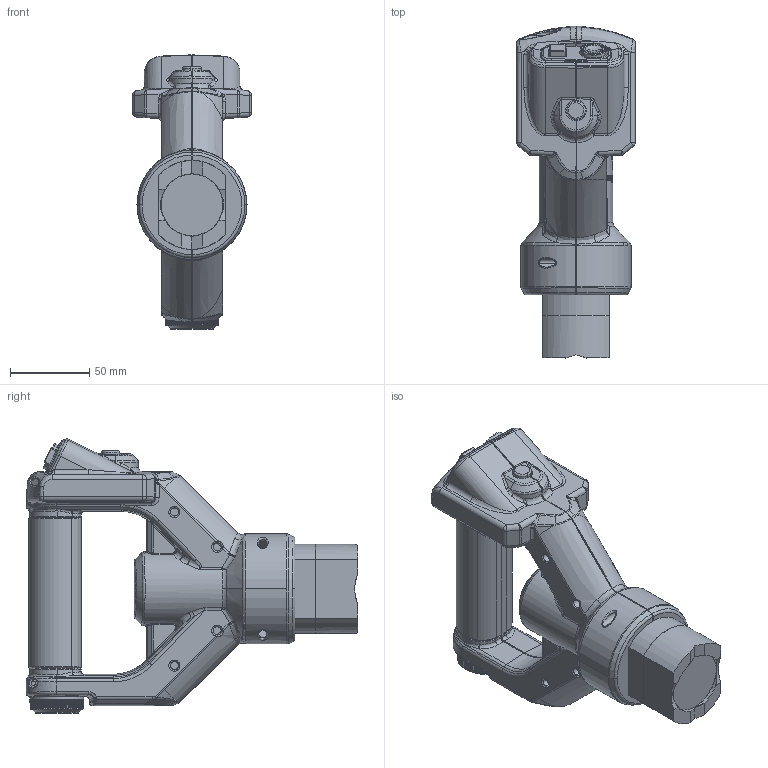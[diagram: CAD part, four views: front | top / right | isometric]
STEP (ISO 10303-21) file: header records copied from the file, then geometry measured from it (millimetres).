
FILE_DESCRIPTION (( 'STEP AP203' ), '1' );
FILE_NAME ('8100385_p.STEP', '2012-04-05T17:19:15', ( '' ), ( '' ), 'SwSTEP 2.0', 'SolidWorks 2010', '' );
FILE_SCHEMA (( 'CONFIG_CONTROL_DESIGN' ));
Length unit declared in the file: millimetre
Products named in the file (1): 8100385_p
Bounding box: 75 x 209.32 x 173 mm (x, y, z)
Surface area: 93733.3 mm2 (no closed solid volume)
Topology: 0 solids, 16 shells, 1261 faces, 4228 edges, 2832 vertices
Faces by surface type: bspline 396, plane 353, cylinder 330, cone 99, torus 64, sphere 19
Entity records: 65710 total; most frequent: CARTESIAN_POINT 35397, ORIENTED_EDGE 7146, DIRECTION 4581, EDGE_CURVE 4198, VERTEX_POINT 2827, B_SPLINE_CURVE_WITH_KNOTS 1861, AXIS2_PLACEMENT_3D 1766, EDGE_LOOP 1301
